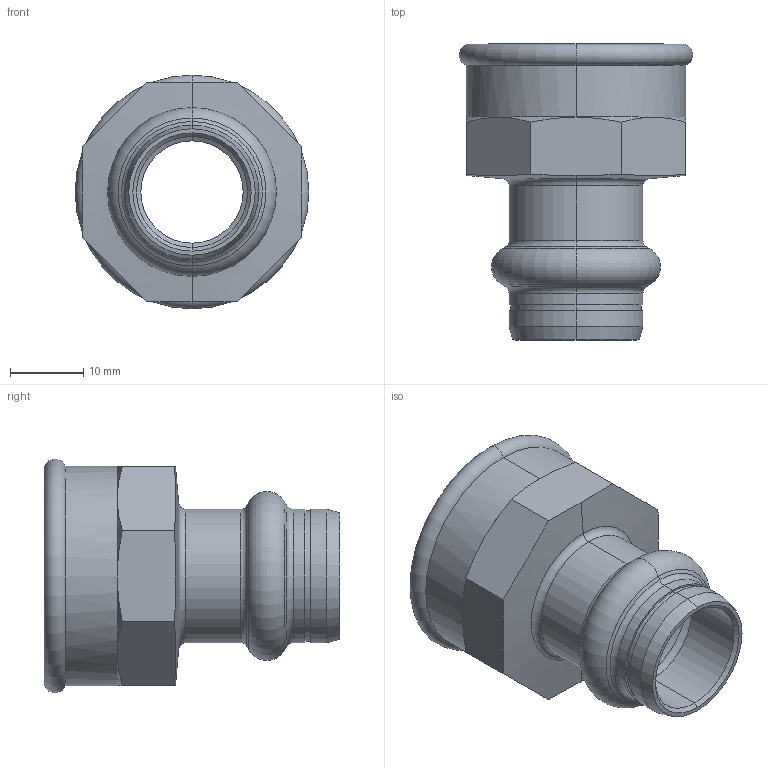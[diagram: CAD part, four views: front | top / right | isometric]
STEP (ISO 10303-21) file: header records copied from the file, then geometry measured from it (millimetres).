
FILE_DESCRIPTION (( 'STEP AP203' ), '1' );
FILE_NAME ('SP4270G Ø15 3-4.STEP', '2017-04-26T08:01:58', ( '' ), ( '' ), 'SwSTEP 2.0', 'SolidWorks 2016', '' );
FILE_SCHEMA (( 'CONFIG_CONTROL_DESIGN' ));
Length unit declared in the file: millimetre
Products named in the file (1): SP4270G Ø15 3-4
Bounding box: 31.99 x 40.5 x 31.99 mm (x, y, z)
Volume: 7755.1 mm3; surface area: 6917.1 mm2
Topology: 1 solids, 1 shells, 68 faces, 144 edges, 82 vertices
Faces by surface type: cone 24, cylinder 18, plane 14, torus 12
Entity records: 1971 total; most frequent: CARTESIAN_POINT 429, DIRECTION 332, ORIENTED_EDGE 288, AXIS2_PLACEMENT_3D 145, EDGE_CURVE 144, VERTEX_POINT 82, CIRCLE 76, EDGE_LOOP 74
